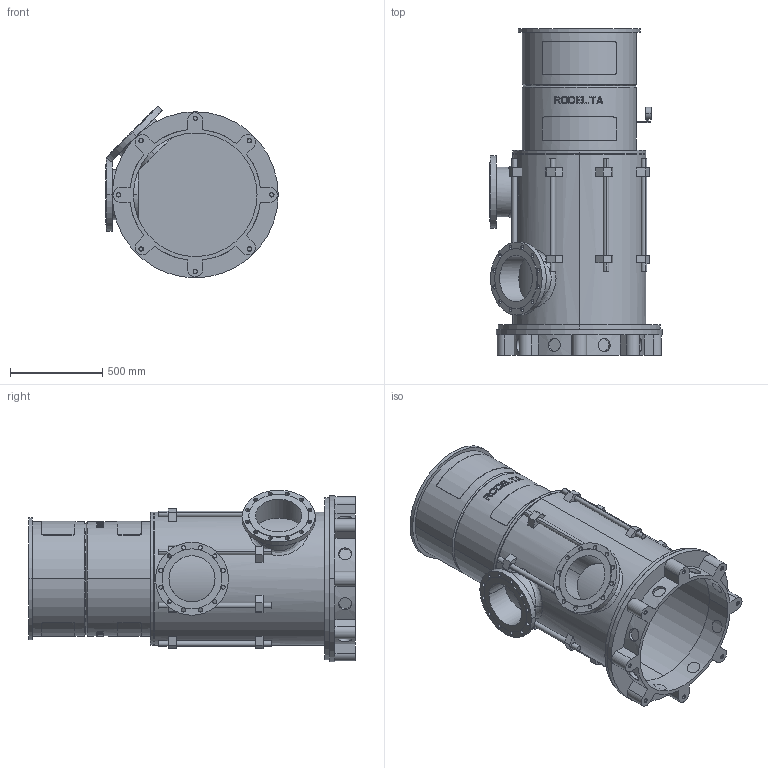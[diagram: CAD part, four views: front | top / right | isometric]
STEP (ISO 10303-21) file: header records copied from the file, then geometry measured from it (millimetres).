
FILE_DESCRIPTION((''),'2;1');
FILE_NAME('LS10_1TR_0GR','2025-10-20T11:02:03',('Lyritlocal'),(''),'CREO PARAMETRIC BY PTC INC, 2022014','CREO PARAMETRIC BY PTC INC, 2022014','');
FILE_SCHEMA(('CONFIG_CONTROL_DESIGN'));
Length unit declared in the file: millimetre
Products named in the file (1): LS10_1TR_0GR
Bounding box: 935 x 1770 x 930.48 mm (x, y, z)
Volume: 82857017 mm3; surface area: 11020491.6 mm2
Topology: 3 solids, 11 shells, 752 faces, 1934 edges, 1288 vertices
Faces by surface type: plane 462, cylinder 274, cone 12, bspline 4
Entity records: 24400 total; most frequent: CARTESIAN_POINT 6054, ORIENTED_EDGE 3836, DIRECTION 3662, EDGE_CURVE 1934, AXIS2_PLACEMENT_3D 1381, VERTEX_POINT 1288, EDGE_LOOP 924, VECTOR 900
